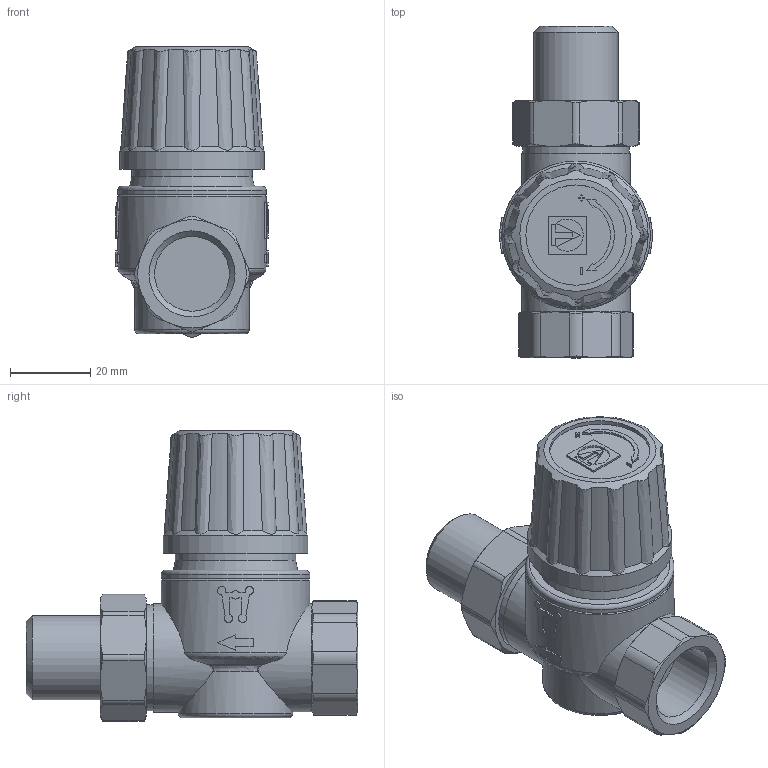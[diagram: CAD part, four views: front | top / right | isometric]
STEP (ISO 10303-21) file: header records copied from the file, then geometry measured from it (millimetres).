
FILE_DESCRIPTION(('STEP AP203'), '1');
FILE_NAME('VT.034.N.04', '', ('UNSPECIFIED'), ('UNSPECIFIED'), 'C3D Converter', 'C3D Toolkit', '');
FILE_SCHEMA(('CONFIG_CONTROL_DESIGN'));
Length unit declared in the file: millimetre
Products named in the file (1): ВР.493176.025.000 СБ
Bounding box: 38 x 82.69 x 72.4 mm (x, y, z)
Volume: 83098.7 mm3; surface area: 17439.2 mm2
Topology: 1 solids, 1 shells, 366 faces, 960 edges, 626 vertices
Faces by surface type: plane 152, extrusion 95, cone 56, cylinder 45, bspline 12, torus 6
Full cylindrical faces by diameter (mm): 15 x1, 18.632 x1, 20.955 x1, 22.2 x1, 25 x1, 26.441 x1, 27 x2, 28.5 x1, 30 x1, 36 x1, 37 x2
Entity records: 16465 total; most frequent: CARTESIAN_POINT 8243, ORIENTED_EDGE 1866, DIRECTION 1288, EDGE_CURVE 933, VERTEX_POINT 625, VECTOR 512, B_SPLINE_CURVE_WITH_KNOTS 462, EDGE_LOOP 420
